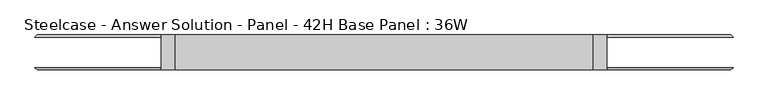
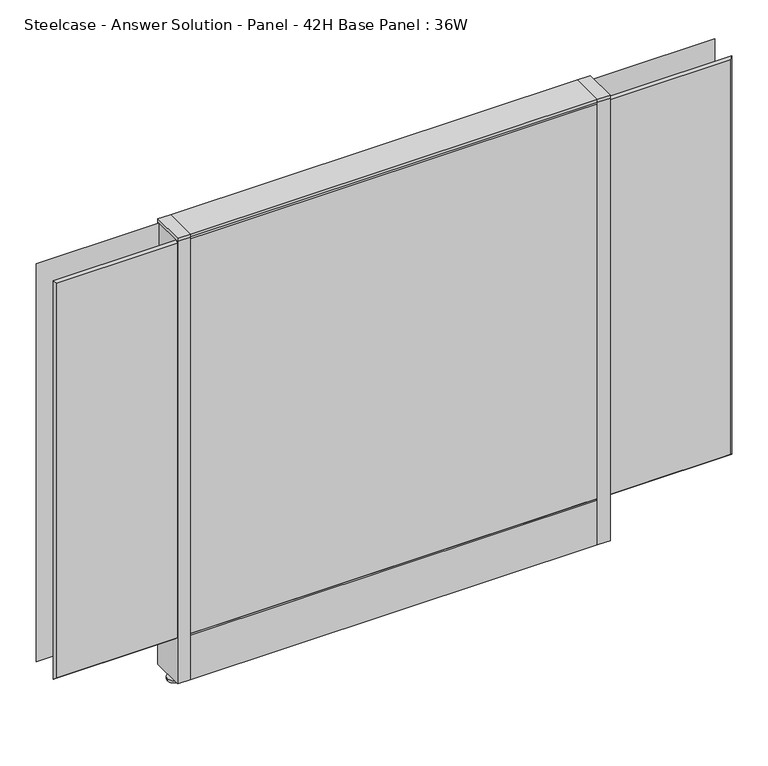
"""IFC4 building model written with IfcOpenShell, lengths in millimetres: furniture geometry, Steelcase - Answer Solution - Panel - 42H Base Panel : 36W."""

import ifcopenshell
import ifcopenshell.guid

model = None  # the IFC model being written
_history = None  # IfcOwnerHistory: only IFC2X3 demands one
_inside = {}  # id of a spatial element -> (the spatial element, [elements in it])
_under = {}  # id of a project, library or spatial element -> (it, [spatial elements below it])
_declared = {}  # id of a project -> (the project, [libraries it declares])
_typed = {}  # id of a type object -> (the type object, [elements of that type])
_made_of = {}  # id of a material, layer set ... -> (it, [elements and type objects made of it])


def new_model(schema):
    """Start an empty IFC model of exactly this schema.

    Asked for "IFC4X3", IfcOpenShell would pick the latest addendum, in which some entities
    have other attributes; the version numbers below select the first issue.
    IFC2X3 requires an IfcOwnerHistory on every rooted entity: one is made here for all.
    """
    global model, _history
    if schema == "IFC4X3":
        model = ifcopenshell.file(schema_version=(4, 3, 0, 0))
    else:
        model = ifcopenshell.file(schema=schema)
    _inside.clear()
    _under.clear()
    _declared.clear()
    _typed.clear()
    _made_of.clear()
    _history = None
    if model.schema == "IFC2X3":
        org = make("IfcOrganization", Name="unknown")
        user = make(
            "IfcPersonAndOrganization",
            ThePerson=make("IfcPerson", FamilyName="unknown"),
            TheOrganization=org,
        )
        app = make(
            "IfcApplication",
            ApplicationDeveloper=org,
            Version="unknown",
            ApplicationFullName="unknown",
            ApplicationIdentifier="unknown",
        )
        _history = make(
            "IfcOwnerHistory",
            OwningUser=user,
            OwningApplication=app,
            ChangeAction="ADDED",
            CreationDate=0,
        )
    return model


def make(cls, **values):
    """One entity of the class cls with the attributes given. An attribute that is None is left unset."""
    return model.create_entity(
        cls, **{name: value for name, value in values.items() if value is not None}
    )


def rooted(cls, **values):
    """An entity with a GlobalId (a new one), such as an element, a storey or a relation."""
    return make(cls, GlobalId=ifcopenshell.guid.new(), OwnerHistory=_history, **values)


def si_unit(unit_type, name, prefix=None):
    """IfcSIUnit, for example si_unit("LENGTHUNIT", "METRE", prefix="MILLI")."""
    return make("IfcSIUnit", UnitType=unit_type, Prefix=prefix, Name=name)


def assignment(units):
    """IfcUnitAssignment: the units of a project."""
    return None if units is None else make("IfcUnitAssignment", Units=units)


def point(xyz):
    """IfcCartesianPoint."""
    return None if xyz is None else make("IfcCartesianPoint", Coordinates=xyz)


def direction(xyz):
    """IfcDirection."""
    return None if xyz is None else make("IfcDirection", DirectionRatios=xyz)


def frame(location, z_axis=None, x_axis=None):
    """IfcAxis2Placement3D, a coordinate frame: its origin and axes. An axis left out is left unset."""
    return make(
        "IfcAxis2Placement3D",
        Location=point(location),
        Axis=direction(z_axis),
        RefDirection=direction(x_axis),
    )


def frame_2d(location, x_axis=None):
    """IfcAxis2Placement2D, a coordinate frame in the plane: its origin and x axis."""
    return make(
        "IfcAxis2Placement2D", Location=point(location), RefDirection=direction(x_axis)
    )


def origin():
    """The frame at (0, 0, 0) with its axes left unset."""
    return frame((0.0, 0.0, 0.0))


def place(relative_to, where):
    """IfcLocalPlacement: puts the frame where relative to a parent placement (None: the world)."""
    return make(
        "IfcLocalPlacement", PlacementRelTo=relative_to, RelativePlacement=where
    )


def context(
    kind, dimensions, precision=None, world=None, true_north=None, identifier=None
):
    """IfcGeometricRepresentationContext, for example the 3D "Model" context."""
    return make(
        "IfcGeometricRepresentationContext",
        ContextIdentifier=identifier,
        ContextType=kind,
        CoordinateSpaceDimension=dimensions,
        Precision=precision,
        WorldCoordinateSystem=world,
        TrueNorth=true_north,
    )


def project(units=None, contexts=None):
    """IfcProject with its units and contexts."""
    return rooted(
        "IfcProject",
        Name="project",
        RepresentationContexts=contexts,
        UnitsInContext=assignment(units),
    )


def spatial(cls, under=None, at=None, **own):
    """A site, building, storey or space (cls), placed at a placement, below another one or the project."""
    s = rooted(cls, ObjectPlacement=at, **own)
    if under is not None:
        _under.setdefault(under.id(), (under, []))[1].append(s)
    return s


def polyline(points):
    """IfcPolyline through the points."""
    return make("IfcPolyline", Points=[point(p) for p in points])


def circle_curve(where, radius):
    """IfcCircle in the frame where."""
    return make("IfcCircle", Position=where, Radius=radius)


def trimmed(basis, trim1, trim2, sense, master):
    """IfcTrimmedCurve: the piece of a basis curve between two trims."""
    return make(
        "IfcTrimmedCurve",
        BasisCurve=basis,
        Trim1=trim1,
        Trim2=trim2,
        SenseAgreement=sense,
        MasterRepresentation=master,
    )


def segment(curve, same_sense, transition):
    """IfcCompositeCurveSegment."""
    return make(
        "IfcCompositeCurveSegment",
        Transition=transition,
        SameSense=same_sense,
        ParentCurve=curve,
    )


def composite_curve(segments, self_intersect=None):
    """IfcCompositeCurve: segments joined end to end."""
    return make("IfcCompositeCurve", Segments=segments, SelfIntersect=self_intersect)


def outline(outer, holes=None, kind="AREA"):
    """IfcArbitraryClosedProfileDef: a profile drawn as a closed curve; with holes, ...WithVoids."""
    if holes is None:
        return make("IfcArbitraryClosedProfileDef", ProfileType=kind, OuterCurve=outer)
    return make(
        "IfcArbitraryProfileDefWithVoids",
        ProfileType=kind,
        OuterCurve=outer,
        InnerCurves=holes,
    )


def extrude(swept, where, along, depth):
    """IfcExtrudedAreaSolid: the profile swept, set in the frame where, extruded along a direction by depth."""
    return make(
        "IfcExtrudedAreaSolid",
        SweptArea=swept,
        Position=where,
        ExtrudedDirection=direction(along),
        Depth=depth,
    )


def faces_of(points, faces, orient=None, outer=None):
    """IfcFace entities. A face is a list of loops; a loop is a list of indices into points, from 0.

    orient and outer hold one flag for each loop. By default every Orientation is true, the
    first loop of a face is its IfcFaceOuterBound and the others are IfcFaceBound.
    """
    made = []
    for i, loops in enumerate(faces):
        bounds = []
        for j, loop in enumerate(loops):
            is_outer = j == 0 if outer is None else outer[i][j]
            bounds.append(
                make(
                    "IfcFaceOuterBound" if is_outer else "IfcFaceBound",
                    Bound=make("IfcPolyLoop", Polygon=[points[k] for k in loop]),
                    Orientation=True if orient is None else orient[i][j],
                )
            )
        made.append(make("IfcFace", Bounds=bounds))
    return made


def faceted_brep(points, faces, orient=None, outer=None, voids=None):
    """IfcFacetedBrep: a solid bounded by flat faces; with voids (closed shells), ...WithVoids."""
    shared = [point(p) for p in points]
    hull = make("IfcClosedShell", CfsFaces=faces_of(shared, faces, orient, outer))
    if voids is None:
        return make("IfcFacetedBrep", Outer=hull)
    return make(
        "IfcFacetedBrepWithVoids",
        Outer=hull,
        Voids=[
            make(cls, CfsFaces=faces_of(shared, fs, o, b)) for cls, fs, o, b in voids
        ],
    )


def shape(context_of_items, identifier, shape_type, items):
    """IfcShapeRepresentation: the items that make up one representation, for example the "Body"."""
    return make(
        "IfcShapeRepresentation",
        ContextOfItems=context_of_items,
        RepresentationIdentifier=identifier,
        RepresentationType=shape_type,
        Items=items,
    )


def source(mapping_origin, context_of_items, identifier, shape_type, items):
    """IfcRepresentationMap: a shape defined once, which mapped items show again and again."""
    return make(
        "IfcRepresentationMap",
        MappingOrigin=mapping_origin,
        MappedRepresentation=shape(context_of_items, identifier, shape_type, items),
    )


def transform(
    local_origin,
    x_axis=None,
    y_axis=None,
    z_axis=None,
    scale=None,
    scale2=None,
    scale3=None,
    uniform=True,
):
    """IfcCartesianTransformationOperator3D, or its non-uniform kind. x_axis, y_axis, z_axis: its Axis1, 2, 3."""
    if uniform:
        return make(
            "IfcCartesianTransformationOperator3D",
            Axis1=direction(x_axis),
            Axis2=direction(y_axis),
            LocalOrigin=point(local_origin),
            Scale=scale,
            Axis3=direction(z_axis),
        )
    return make(
        "IfcCartesianTransformationOperator3DnonUniform",
        Axis1=direction(x_axis),
        Axis2=direction(y_axis),
        LocalOrigin=point(local_origin),
        Scale=scale,
        Axis3=direction(z_axis),
        Scale2=scale2,
        Scale3=scale3,
    )


def mapped(mapping_source, mapping_target):
    """IfcMappedItem: shows the shape of a source again, moved by a transform."""
    return make(
        "IfcMappedItem", MappingSource=mapping_source, MappingTarget=mapping_target
    )


def made_of(thing, what):
    """Note that an element or type object is made of a material, layer set ...; save() writes the relation."""
    if what is not None:
        _made_of.setdefault(what.id(), (what, []))[1].append(thing)
    return thing


def element(
    cls,
    number,
    at=None,
    inside=None,
    cuts=None,
    type_object=None,
    material=None,
    context=None,
    identifier="Body",
    shape_type=None,
    held_by="IfcProductDefinitionShape",
    body=None,
    shapes=None,
    **own,
):
    """One element of the class cls, such as IfcWall. Its Tag is "e" and its number.

    at: its placement. inside: the storey or other place that contains it. cuts: it is an
    opening in that element (IfcRelVoidsElement). A single representation is given by context,
    identifier, shape_type and body (its items); several are given by shapes. held_by: the class
    of the entity that holds the representations. save() writes the other relations.
    """
    e = rooted(cls, Tag="e%d" % number, ObjectPlacement=at, **own)
    if body is not None:
        shapes = [shape(context, identifier, shape_type, body)]
    if shapes is not None:
        e.Representation = make(held_by, Representations=shapes)
    if inside is not None:
        _inside.setdefault(inside.id(), (inside, []))[1].append(e)
    if cuts is not None:
        rooted(
            "IfcRelVoidsElement", RelatingBuildingElement=cuts, RelatedOpeningElement=e
        )
    if type_object is not None:
        _typed.setdefault(type_object.id(), (type_object, []))[1].append(e)
    return made_of(e, material)


def aggregate(whole, parts):
    """IfcRelAggregates: a whole, such as a stair, and the parts it consists of."""
    return rooted("IfcRelAggregates", RelatingObject=whole, RelatedObjects=parts)


def save(model, path):
    """Write the relations noted so far, then the file.

    IfcRelAggregates (storeys below a building ...), IfcRelContainedInSpatialStructure (elements
    in a storey), IfcRelDefinesByType, IfcRelAssociatesMaterial and IfcRelDeclares: one each for
    every whole, place, type object, material and project.
    """
    for whole, parts in _under.values():
        aggregate(whole, parts)
    for where, things in _inside.values():
        rooted(
            "IfcRelContainedInSpatialStructure",
            RelatedElements=things,
            RelatingStructure=where,
        )
    for kind, things in _typed.values():
        rooted("IfcRelDefinesByType", RelatedObjects=things, RelatingType=kind)
    for what, things in _made_of.values():
        rooted("IfcRelAssociatesMaterial", RelatedObjects=things, RelatingMaterial=what)
    for by, libraries in _declared.values():
        rooted("IfcRelDeclares", RelatingContext=by, RelatedDefinitions=libraries)
    model.write(path)


def steelcase_answer_solution_panel_42h_base_panel_36w_9874b5ed(model_context):
    return source(origin(), model_context, "Body", "SolidModel", [
        extrude(outline(composite_curve([segment(trimmed(circle_curve(frame_2d((471.424, 0.0039657)), 5.08), [point((476.504, 0.0039657))], [point((466.344, 0.0039657))], False, "CARTESIAN"), True, "CONTINUOUS"), segment(trimmed(circle_curve(frame_2d((471.424, 0.0039657)), 5.08), [point((466.344, 0.0039657))], [point((476.504, 0.0039657))], False, "CARTESIAN"), True, "CONTINUOUS")], self_intersect=False)), frame((0.0, 0.0, 5.0799671), z_axis=(0.0, 0.0, 1.0), x_axis=(1.0, 0.0, 0.0)), (0.0, 0.0, 1.0), 10.414),
        extrude(outline(composite_curve([segment(trimmed(circle_curve(frame_2d((471.424, 0.0039657)), 15.24), [point((486.664, 0.0039657))], [point((456.184, 0.0039657))], False, "CARTESIAN"), True, "CONTINUOUS"), segment(trimmed(circle_curve(frame_2d((471.424, 0.0039657)), 15.24), [point((456.184, 0.0039657))], [point((486.664, 0.0039657))], False, "CARTESIAN"), True, "CONTINUOUS")], self_intersect=False)), frame((0.0, 0.0, -3.29e-05), z_axis=(0.0, 0.0, 1.0), x_axis=(1.0, 0.0, 0.0)), (0.0, 0.0, 1.0), 5.08),
        extrude(outline(polyline([(485.775, 38.1039851), (485.775, -38.0960149), (457.2, -38.0960149), (457.2, 38.1039851), (485.775, 38.1039851)])), frame((0.0, 0.0, 1065.8348), z_axis=(0.0, 0.0, 1.0), x_axis=(1.0, 0.0, 0.0)), (0.0, 0.0, 1.0), 7.3151671),
        extrude(outline(polyline([(485.775, 38.1039851), (485.775, -38.0960149), (457.2, -38.0960149), (457.2, 38.1039851), (485.775, 38.1039851)])), frame((0.0, 0.0, 15.4939671), z_axis=(0.0, 0.0, 1.0), x_axis=(1.0, 0.0, 0.0)), (0.0, 0.0, 1.0), 1050.3408329),
        extrude(outline(composite_curve([segment(trimmed(circle_curve(frame_2d((-471.424, 0.0039657)), 5.08), [point((-476.504, 0.0039657))], [point((-466.344, 0.0039657))], False, "CARTESIAN"), True, "CONTINUOUS"), segment(trimmed(circle_curve(frame_2d((-471.424, 0.0039657)), 5.08), [point((-466.344, 0.0039657))], [point((-476.504, 0.0039657))], False, "CARTESIAN"), True, "CONTINUOUS")], self_intersect=False)), frame((0.0, 0.0, 5.0799671), z_axis=(0.0, 0.0, 1.0), x_axis=(1.0, 0.0, 0.0)), (0.0, 0.0, 1.0), 10.414),
        extrude(outline(composite_curve([segment(trimmed(circle_curve(frame_2d((-471.424, 0.0039657)), 15.24), [point((-486.664, 0.0039657))], [point((-456.184, 0.0039657))], False, "CARTESIAN"), True, "CONTINUOUS"), segment(trimmed(circle_curve(frame_2d((-471.424, 0.0039657)), 15.24), [point((-456.184, 0.0039657))], [point((-486.664, 0.0039657))], False, "CARTESIAN"), True, "CONTINUOUS")], self_intersect=False)), frame((0.0, 0.0, -3.29e-05), z_axis=(0.0, 0.0, 1.0), x_axis=(1.0, 0.0, 0.0)), (0.0, 0.0, 1.0), 5.08),
        extrude(outline(polyline([(-485.775, 38.1039851), (-457.2, 38.1039851), (-457.2, -38.0960149), (-485.775, -38.0960149), (-485.775, 38.1039851)])), frame((0.0, 0.0, 1065.8348), z_axis=(0.0, 0.0, 1.0), x_axis=(1.0, 0.0, 0.0)), (0.0, 0.0, 1.0), 7.3151671),
        extrude(outline(polyline([(-485.775, 38.1039851), (-457.2, 38.1039851), (-457.2, -38.0960149), (-485.775, -38.0960149), (-485.775, 38.1039851)])), frame((0.0, 0.0, 15.4939671), z_axis=(0.0, 0.0, 1.0), x_axis=(1.0, 0.0, 0.0)), (0.0, 0.0, 1.0), 1050.3408329),
        faceted_brep([(-757.174, 38.1635011, 1061.974), (757.174, 38.1635011, 1061.974), (757.174, 38.1635011, 125.476), (-757.174, 38.1635011, 125.476), (-762.0, 33.3375011, 1066.8), (-762.0, 33.3375011, 120.65), (762.0, 33.3375011, 120.65), (762.0, 33.3375011, 1066.8)], [[[0, 1, 2, 3]], [[4, 5, 6, 7]], [[4, 7, 1, 0]], [[7, 6, 2, 1]], [[6, 5, 3, 2]], [[5, 4, 0, 3]]]),
        faceted_brep([(757.174, -38.1635011, 1061.974), (-757.174, -38.1635011, 1061.974), (-757.174, -38.1635011, 125.476), (757.174, -38.1635011, 125.476), (762.0, -33.3375011, 1066.8), (762.0, -33.3375011, 120.65), (-762.0, -33.3375011, 120.65), (-762.0, -33.3375011, 1066.8)], [[[0, 1, 2, 3]], [[4, 5, 6, 7]], [[4, 7, 1, 0]], [[7, 6, 2, 1]], [[6, 5, 3, 2]], [[5, 4, 0, 3]]]),
        extrude(outline(polyline([(457.2, 38.1000194), (457.2, -38.1000194), (-457.2, -38.1000194), (-457.2, 38.1000194), (457.2, 38.1000194)])), frame((0.0, 0.0, 1066.8), z_axis=(0.0, 0.0, 1.0), x_axis=(1.0, 0.0, 0.0)), (0.0, 0.0, 1.0), 6.35),
        extrude(outline(polyline([(25.4000011, 119.8575157), (25.4000011, 120.65), (38.1000194, 120.65), (38.1000194, 15.494), (37.3075215, 15.494), (37.3075215, 119.8575157), (25.4000011, 119.8575157)])), frame((-457.2, 0.0, 0.0), z_axis=(1.0, 0.0, 0.0), x_axis=(0.0, 1.0, 0.0)), (0.0, 0.0, 1.0), 914.4),
        extrude(outline(polyline([(-25.4000011, 119.8575157), (-37.3075215, 119.8575157), (-37.3075215, 15.494), (-38.1000194, 15.494), (-38.1000194, 120.65), (-25.4000011, 120.65), (-25.4000011, 119.8575157)])), frame((-457.2, 0.0, 0.0), z_axis=(1.0, 0.0, 0.0), x_axis=(0.0, 1.0, 0.0)), (0.0, 0.0, 1.0), 914.4),
    ])


if __name__ == "__main__":
    model = new_model("IFC4")
    model_context = context("Model", 3, world=origin())
    ifc_project = project(units=[si_unit("LENGTHUNIT", "METRE", prefix="MILLI")], contexts=[model_context])
    site = spatial("IfcSite", under=ifc_project)
    building = spatial("IfcBuilding", under=site)
    placement = place(None, origin())
    steelcase_answer_solution_panel_42h_base_panel_36w_shape = steelcase_answer_solution_panel_42h_base_panel_36w_9874b5ed(model_context)
    element("IfcFurniture", 1, ObjectType="Steelcase - Answer Solution - Panel - 42H Base Panel : 36W", at=placement, inside=building, context=model_context, shape_type="MappedRepresentation", body=[
        mapped(steelcase_answer_solution_panel_42h_base_panel_36w_shape, transform((0.0, 0.0, 0.0), x_axis=(1.0, 0.0, 0.0), y_axis=(0.0, 1.0, 0.0), z_axis=(0.0, 0.0, 1.0))),
    ])
    save(model, "model.ifc")
